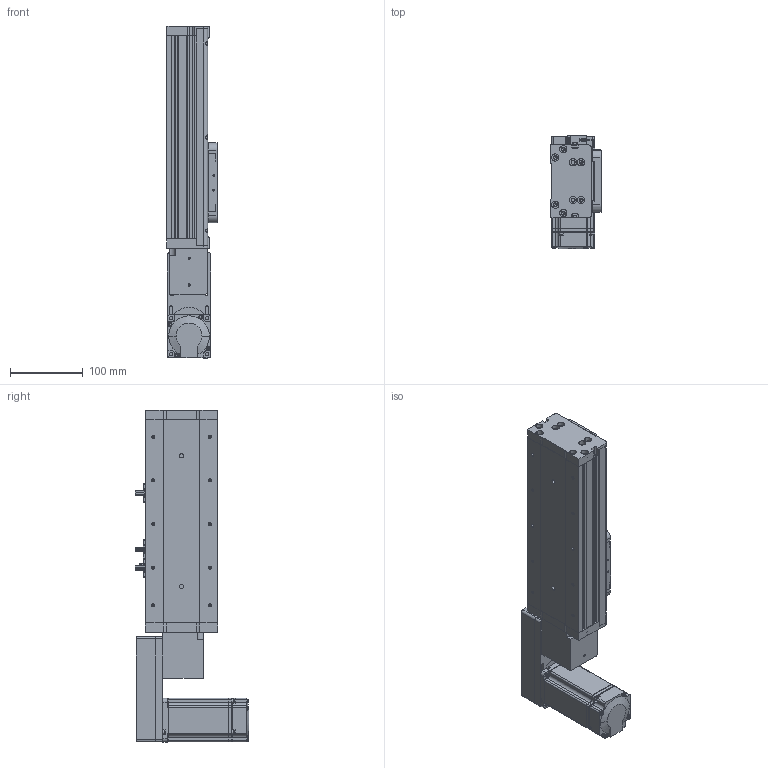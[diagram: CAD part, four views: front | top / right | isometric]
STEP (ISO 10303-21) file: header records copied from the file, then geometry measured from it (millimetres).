
FILE_DESCRIPTION (( 'STEP AP214' ), '1' );
FILE_NAME ('KSD100B-S100-MLB-CR.STEP', '2019-09-06T07:25:01', ( '微软用户' ), ( '微软中国' ), 'SwSTEP 2.0', 'SolidWorks 2014', '' );
FILE_SCHEMA (( 'AUTOMOTIVE_DESIGN' ));
Length unit declared in the file: millimetre
Products named in the file (15): 100宽马达安装板连板上下折丝杆同步带; 感应片100宽全封闭; U倰嫖萇EEㄜSX672; 100宽马达安装板同步带左; 100遵鎮湛假蚾啣蜊; 100宽端板同步带全封闭; 100宽滚珠螺姆安装板1防护罩; 100宽滚珠螺姆安装板1; 100遵裔啣揤啣; 100遵裔啣100俴最; 100宽侧板100行程同步带; 悵誘欶奻狟殏; 100宽底板全封闭100行程同步带; MHMD042G1CA_2_03; KSD100B-S100-MLB-CR
Assembly tree (18 placements, depth 2):
  KSD100B-S100-MLB-CR
    100宽底板全封闭100行程同步带
    100宽侧板100行程同步带  x2
    100遵裔啣100俴最
    100遵裔啣揤啣  x2
    100宽滚珠螺姆安装板1
    100宽滚珠螺姆安装板1防护罩
    100宽端板同步带全封闭
    100遵鎮湛假蚾啣蜊
    100宽马达安装板同步带左
    U倰嫖萇EEㄜSX672  x3
    感应片100宽全封闭
    100宽马达安装板连板上下折丝杆同步带
    悵誘欶奻狟殏
    MHMD042G1CA_2_03
Bounding box: 70 x 156.2 x 457 mm (x, y, z)
Volume: 899732 mm3; surface area: 435523.6 mm2
Topology: 17 solids, 18 shells, 1597 faces, 4454 edges, 2897 vertices
Faces by surface type: plane 729, cylinder 697, cone 151, bspline 20
Entity records: 56590 total; most frequent: CARTESIAN_POINT 8520, DIRECTION 7718, ORIENTED_EDGE 7180, EDGE_CURVE 3662, AXIS2_PLACEMENT_3D 2753, VERTEX_POINT 2435, VECTOR 2212, LINE 2212
